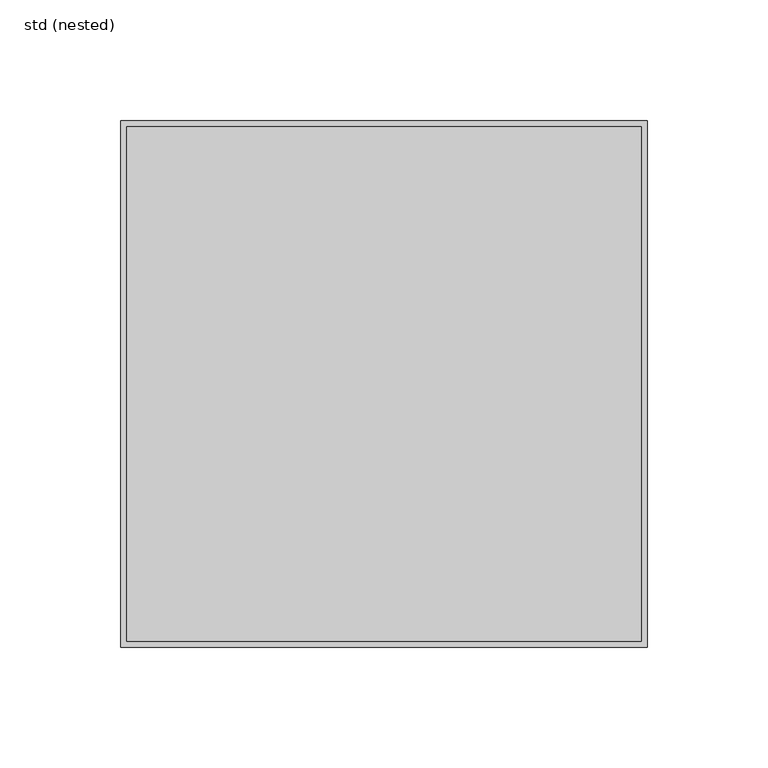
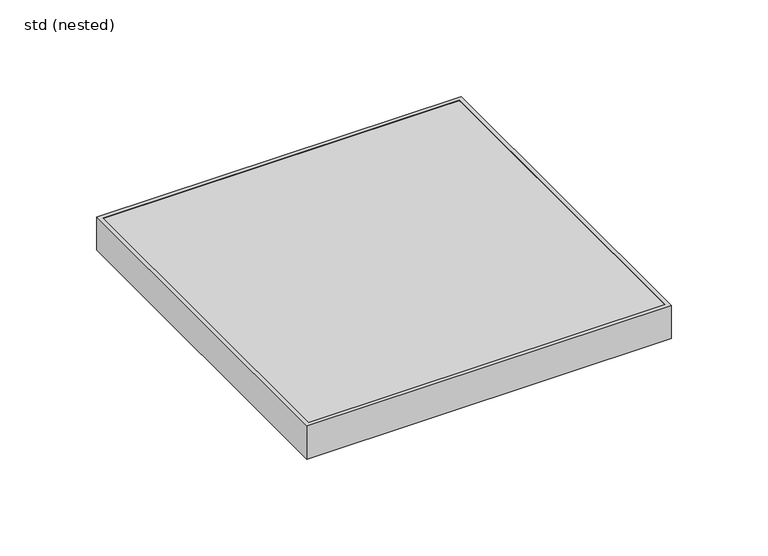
"""IFC4 building model written with IfcOpenShell, lengths in millimetres: sanitary terminal geometry, ZZZ_do not use_PF_ST_UN_square grating for hygienic gully_ACO : std (nested)."""

from ifc_helpers import new_model, si_unit, frame, origin, place, context, project, spatial, polyline, outline, extrude, source, transform, mapped, element, save


def std_nested_2be02d67(model_context):
    return source(origin(), model_context, "Body", "SweptSolid", [
        extrude(outline(polyline([(109.0, 109.0), (109.0, -109.0), (-109.0, -109.0), (-109.0, 109.0), (109.0, 109.0)]), holes=[polyline([(106.5, 106.5), (-106.5, 106.5), (-106.5, -106.5), (106.5, -106.5), (106.5, 106.5)])]), frame((0.0, 0.0, -21.0), z_axis=(0.0, 0.0, 1.0), x_axis=(1.0, 0.0, 0.0)), (0.0, 0.0, 1.0), 21.0),
        extrude(outline(polyline([(106.5, 106.5), (106.5, -106.5), (-106.5, -106.5), (-106.5, 106.5), (106.5, 106.5)])), frame((0.0, 0.0, -20.0), z_axis=(0.0, 0.0, 1.0), x_axis=(1.0, 0.0, 0.0)), (0.0, 0.0, 1.0), 20.0),
    ])


if __name__ == "__main__":
    model = new_model("IFC4")
    model_context = context("Model", 3, world=origin())
    ifc_project = project(units=[si_unit("LENGTHUNIT", "METRE", prefix="MILLI")], contexts=[model_context])
    site = spatial("IfcSite", under=ifc_project)
    building = spatial("IfcBuilding", under=site)
    placement = place(None, origin())
    std_nested_shape = std_nested_2be02d67(model_context)
    element("IfcSanitaryTerminal", 1, ObjectType="ZZZ_do not use_PF_ST_UN_square grating for hygienic gully_ACO : std (nested)", at=placement, inside=building, context=model_context, shape_type="MappedRepresentation", body=[
        mapped(std_nested_shape, transform((0.0, 0.0, 0.0), x_axis=(1.0, 0.0, 0.0), y_axis=(0.0, 1.0, 0.0), z_axis=(0.0, 0.0, 1.0))),
    ])
    save(model, "model.ifc")
